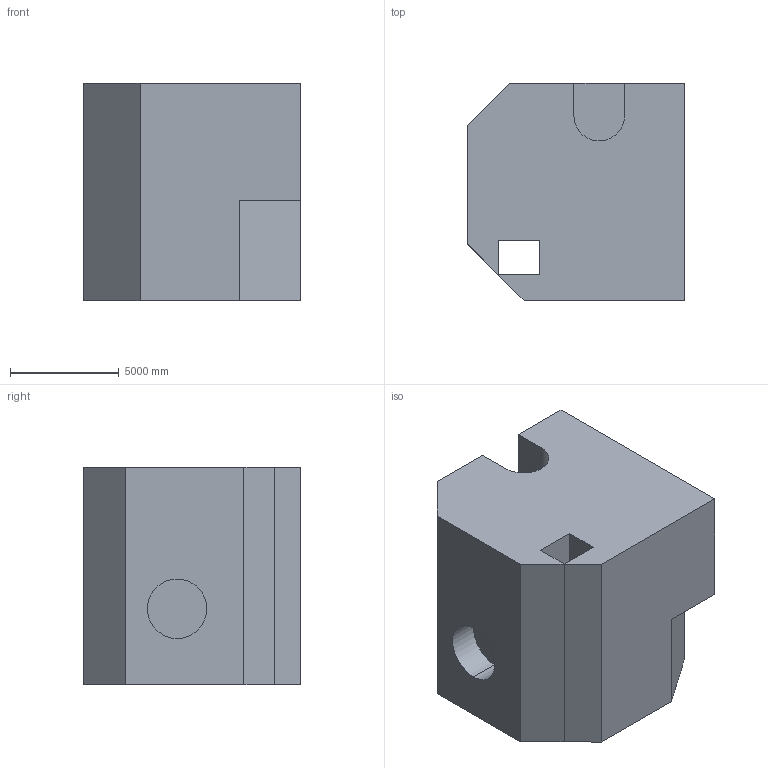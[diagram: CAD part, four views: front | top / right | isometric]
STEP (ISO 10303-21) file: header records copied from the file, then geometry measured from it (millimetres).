
FILE_DESCRIPTION (( 'STEP AP203' ), '1' );
FILE_NAME ('696.STEP', '2022-07-29T12:35:03', ( 'user' ), ( '' ), 'SwSTEP 2.0', 'SolidWorks 2021', '' );
FILE_SCHEMA (( 'CONFIG_CONTROL_DESIGN' ));
Length unit declared in the file: centimetre
Products named in the file (1): 696
Bounding box: 10000 x 10000 x 10000 mm (x, y, z)
Volume: 829154152770 mm3; surface area: 687518159 mm2
Topology: 1 solids, 1 shells, 25 faces, 66 edges, 44 vertices
Faces by surface type: plane 22, cylinder 3
Entity records: 847 total; most frequent: CARTESIAN_POINT 136, ORIENTED_EDGE 132, DIRECTION 124, EDGE_CURVE 66, VECTOR 60, LINE 60, VERTEX_POINT 44, AXIS2_PLACEMENT_3D 32
